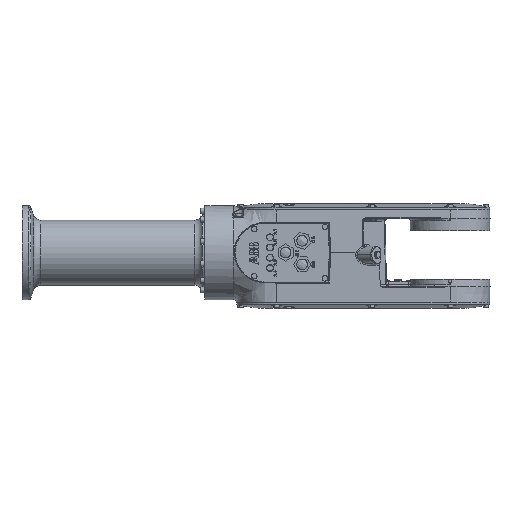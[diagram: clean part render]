
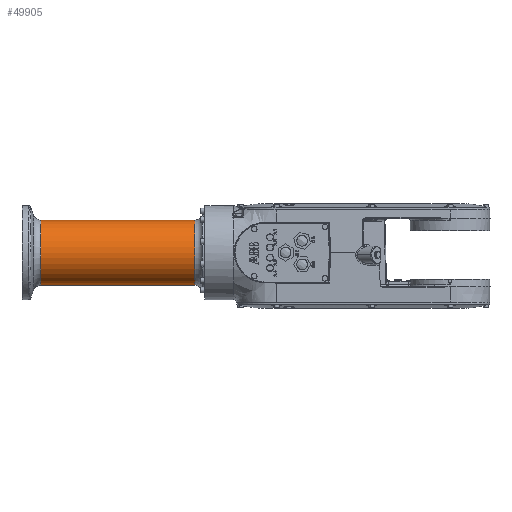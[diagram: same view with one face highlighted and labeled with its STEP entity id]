
A CAD part, top view. The second image highlights one B-rep face of the part: STEP entity #49905.
In plain terms, the highlighted cylindrical face has radius 41.5 mm (diameter 83 mm), a partial arc.
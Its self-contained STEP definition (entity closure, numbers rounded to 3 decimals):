
#1805 = DIRECTION ( 'NONE',  ( -1., 0., 0. ) ) ;
#2060 = ORIENTED_EDGE ( 'NONE', *, *, #27379, .F. ) ;
#3594 = VERTEX_POINT ( 'NONE', #24601 ) ;
#6969 = CARTESIAN_POINT ( 'NONE',  ( 267., 0., 1159. ) ) ;
#7246 = AXIS2_PLACEMENT_3D ( 'NONE', #25322, #78000, #52972 ) ;
#8978 = CIRCLE ( 'NONE', #58051, 41.5 ) ;
#10511 = VERTEX_POINT ( 'NONE', #40149 ) ;
#12522 = CARTESIAN_POINT ( 'NONE',  ( 303.27, -41.5, 1159. ) ) ;
#12680 = DIRECTION ( 'NONE',  ( 0., -1., 0. ) ) ;
#19318 = AXIS2_PLACEMENT_3D ( 'NONE', #6969, #72812, #12680 ) ;
#24601 = CARTESIAN_POINT ( 'NONE',  ( 499.774, 41.5, 1159. ) ) ;
#25322 = CARTESIAN_POINT ( 'NONE',  ( 303.27, 0., 1159. ) ) ;
#26715 = CYLINDRICAL_SURFACE ( 'NONE', #19318, 41.5 ) ;
#27379 = EDGE_CURVE ( 'NONE', #36166, #43936, #75335, .T. ) ;
#32464 = FACE_OUTER_BOUND ( 'NONE', #58203, .T. ) ;
#33912 = CIRCLE ( 'NONE', #7246, 41.5 ) ;
#34567 = DIRECTION ( 'NONE',  ( -1., 0., 0. ) ) ;
#36166 = VERTEX_POINT ( 'NONE', #84358 ) ;
#40149 = CARTESIAN_POINT ( 'NONE',  ( 303.27, 41.5, 1159. ) ) ;
#40467 = DIRECTION ( 'NONE',  ( 0., -1., 0. ) ) ;
#43936 = VERTEX_POINT ( 'NONE', #12522 ) ;
#47796 = EDGE_CURVE ( 'NONE', #10511, #3594, #83383, .T. ) ;
#48325 = ORIENTED_EDGE ( 'NONE', *, *, #57337, .T. ) ;
#49905 = ADVANCED_FACE ( 'NONE', ( #32464 ), #26715, .T. ) ;
#52972 = DIRECTION ( 'NONE',  ( 0., -1., 0. ) ) ;
#57337 = EDGE_CURVE ( 'NONE', #36166, #3594, #8978, .T. ) ;
#58051 = AXIS2_PLACEMENT_3D ( 'NONE', #75537, #1805, #40467 ) ;
#58203 = EDGE_LOOP ( 'NONE', ( #81286, #82481, #2060, #48325 ) ) ;
#58362 = CARTESIAN_POINT ( 'NONE',  ( 267., 41.5, 1159. ) ) ;
#72812 = DIRECTION ( 'NONE',  ( -1., 0., 0. ) ) ;
#75335 = LINE ( 'NONE', #81925, #76875 ) ;
#75537 = CARTESIAN_POINT ( 'NONE',  ( 499.774, 0., 1159. ) ) ;
#76875 = VECTOR ( 'NONE', #34567, 1000. ) ;
#78000 = DIRECTION ( 'NONE',  ( 1., 0., 0. ) ) ;
#78108 = DIRECTION ( 'NONE',  ( 1., 0., 0. ) ) ;
#80888 = VECTOR ( 'NONE', #78108, 1000. ) ;
#81286 = ORIENTED_EDGE ( 'NONE', *, *, #47796, .F. ) ;
#81925 = CARTESIAN_POINT ( 'NONE',  ( 267., -41.5, 1159. ) ) ;
#82481 = ORIENTED_EDGE ( 'NONE', *, *, #84662, .T. ) ;
#83383 = LINE ( 'NONE', #58362, #80888 ) ;
#84358 = CARTESIAN_POINT ( 'NONE',  ( 499.774, -41.5, 1159. ) ) ;
#84662 = EDGE_CURVE ( 'NONE', #10511, #43936, #33912, .T. ) ;
